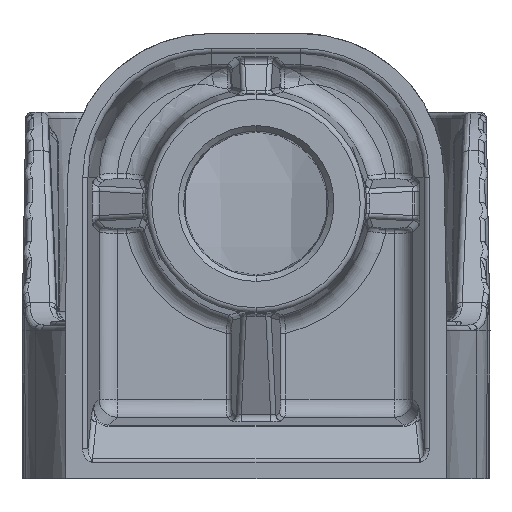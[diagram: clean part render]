
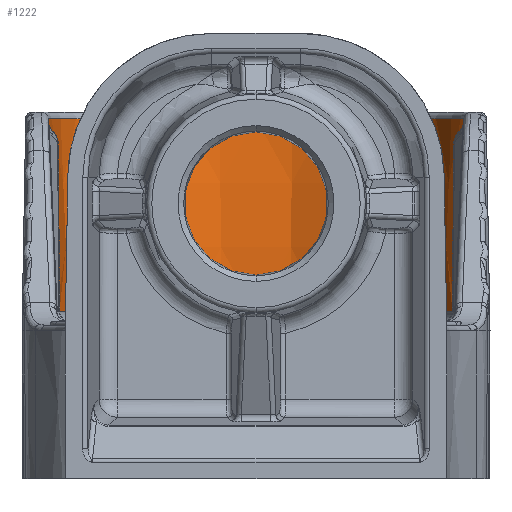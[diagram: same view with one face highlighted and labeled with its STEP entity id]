
A CAD part, front view. The second image highlights one B-rep face of the part: STEP entity #1222.
In plain terms, the highlighted conical face has half-angle 2.5 degrees and reference radius 7.61 mm.
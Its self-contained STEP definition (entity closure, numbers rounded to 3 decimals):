
#1222 = ADVANCED_FACE ( 'NONE', ( #18696 ), #32499, .F. ) ;
#2378 = VERTEX_POINT ( 'NONE', #26104 ) ;
#3051 = VERTEX_POINT ( 'NONE', #8306 ) ;
#3665 = AXIS2_PLACEMENT_3D ( 'NONE', #14014, #24211, #21547 ) ;
#4275 = CARTESIAN_POINT ( 'NONE',  ( -7.61, 54.8, 0.35 ) ) ;
#4340 = DIRECTION ( 'NONE',  ( 0., 0., 1. ) ) ;
#5901 = CARTESIAN_POINT ( 'NONE',  ( 0., 54.8, 0.733 ) ) ;
#7930 = VECTOR ( 'NONE', #17777, 1000. ) ;
#8035 = AXIS2_PLACEMENT_3D ( 'NONE', #5901, #14397, #14079 ) ;
#8306 = CARTESIAN_POINT ( 'NONE',  ( -7.627, 54.8, 0.733 ) ) ;
#8719 = CIRCLE ( 'NONE', #21569, 7.949 ) ;
#8964 = DIRECTION ( 'NONE',  ( 0.044, 0., -0.999 ) ) ;
#9025 = CARTESIAN_POINT ( 'NONE',  ( 0., 54.8, 8.111 ) ) ;
#10435 = ORIENTED_EDGE ( 'NONE', *, *, #31209, .T. ) ;
#10565 = VECTOR ( 'NONE', #8964, 1000. ) ;
#10735 = EDGE_CURVE ( 'NONE', #19474, #3051, #31861, .T. ) ;
#14014 = CARTESIAN_POINT ( 'NONE',  ( 0., 54.8, 0.35 ) ) ;
#14079 = DIRECTION ( 'NONE',  ( -1., 0., 0. ) ) ;
#14397 = DIRECTION ( 'NONE',  ( 0., 0., -1. ) ) ;
#14535 = DIRECTION ( 'NONE',  ( 1., 0., 0. ) ) ;
#15694 = EDGE_CURVE ( 'NONE', #26418, #19474, #8719, .T. ) ;
#17110 = LINE ( 'NONE', #30476, #7930 ) ;
#17777 = DIRECTION ( 'NONE',  ( -0.044, 0., -0.999 ) ) ;
#18696 = FACE_OUTER_BOUND ( 'NONE', #23929, .T. ) ;
#19474 = VERTEX_POINT ( 'NONE', #21561 ) ;
#21547 = DIRECTION ( 'NONE',  ( 1., 0., 0. ) ) ;
#21561 = CARTESIAN_POINT ( 'NONE',  ( -7.949, 54.8, 8.111 ) ) ;
#21569 = AXIS2_PLACEMENT_3D ( 'NONE', #9025, #4340, #14535 ) ;
#23175 = ORIENTED_EDGE ( 'NONE', *, *, #32625, .F. ) ;
#23929 = EDGE_LOOP ( 'NONE', ( #23175, #31893, #31310, #10435 ) ) ;
#24211 = DIRECTION ( 'NONE',  ( 0., 0., 1. ) ) ;
#25102 = CARTESIAN_POINT ( 'NONE',  ( 7.949, 54.8, 8.111 ) ) ;
#26104 = CARTESIAN_POINT ( 'NONE',  ( 7.627, 54.8, 0.733 ) ) ;
#26418 = VERTEX_POINT ( 'NONE', #25102 ) ;
#28303 = CIRCLE ( 'NONE', #8035, 7.627 ) ;
#30476 = CARTESIAN_POINT ( 'NONE',  ( 7.61, 54.8, 0.35 ) ) ;
#31209 = EDGE_CURVE ( 'NONE', #3051, #2378, #28303, .T. ) ;
#31310 = ORIENTED_EDGE ( 'NONE', *, *, #10735, .T. ) ;
#31861 = LINE ( 'NONE', #4275, #10565 ) ;
#31893 = ORIENTED_EDGE ( 'NONE', *, *, #15694, .T. ) ;
#32499 = CONICAL_SURFACE ( 'NONE', #3665, 7.61, 0.044 ) ;
#32625 = EDGE_CURVE ( 'NONE', #26418, #2378, #17110, .T. ) ;
